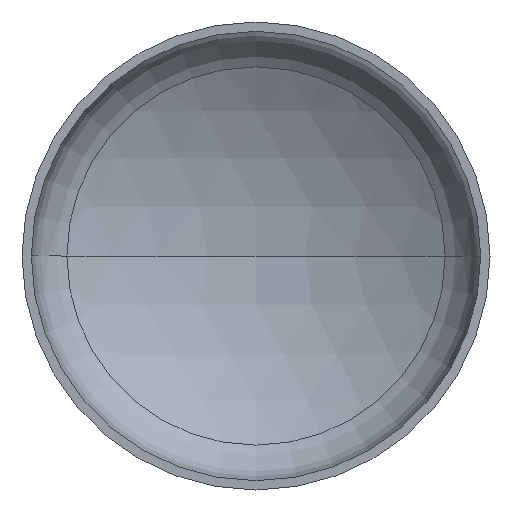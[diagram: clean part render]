
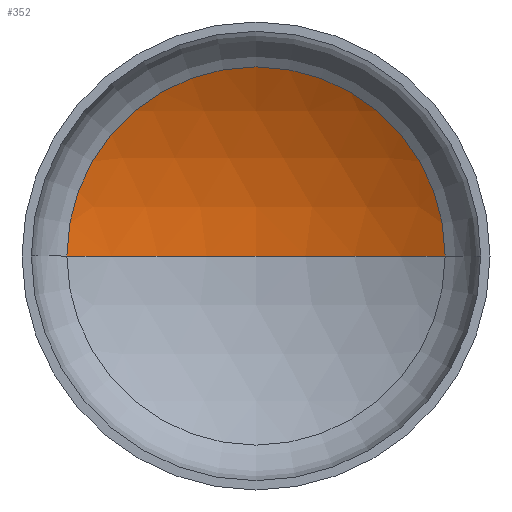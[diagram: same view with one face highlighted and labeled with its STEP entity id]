
A CAD part, front view. The second image highlights one B-rep face of the part: STEP entity #352.
In plain terms, the highlighted spherical face has radius 1200 mm.
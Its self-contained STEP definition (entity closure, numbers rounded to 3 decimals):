
#7 = AXIS2_PLACEMENT_3D ( 'NONE', #148, #357, #398 ) ;
#8 = EDGE_LOOP ( 'NONE', ( #149, #49, #122 ) ) ;
#10 = AXIS2_PLACEMENT_3D ( 'NONE', #68, #105, #107 ) ;
#11 = AXIS2_PLACEMENT_3D ( 'NONE', #236, #396, #381 ) ;
#49 = ORIENTED_EDGE ( 'NONE', *, *, #351, .T. ) ;
#51 = AXIS2_PLACEMENT_3D ( 'NONE', #218, #214, #216 ) ;
#68 = CARTESIAN_POINT ( 'NONE',  ( 0., -747.138, 0. ) ) ;
#90 = EDGE_CURVE ( 'NONE', #367, #166, #409, .T. ) ;
#99 = CARTESIAN_POINT ( 'NONE',  ( 606.186, 288.497, 0. ) ) ;
#105 = DIRECTION ( 'NONE',  ( 0., 0., 1. ) ) ;
#107 = DIRECTION ( 'NONE',  ( 1., 0., 0. ) ) ;
#122 = ORIENTED_EDGE ( 'NONE', *, *, #90, .T. ) ;
#148 = CARTESIAN_POINT ( 'NONE',  ( 0., -747.138, 0. ) ) ;
#149 = ORIENTED_EDGE ( 'NONE', *, *, #356, .F. ) ;
#161 = VERTEX_POINT ( 'NONE', #215 ) ;
#166 = VERTEX_POINT ( 'NONE', #330 ) ;
#168 = CIRCLE ( 'NONE', #10, 1200. ) ;
#214 = DIRECTION ( 'NONE',  ( 0., -1., 0. ) ) ;
#215 = CARTESIAN_POINT ( 'NONE',  ( 0., 452.862, 0. ) ) ;
#216 = DIRECTION ( 'NONE',  ( 1., 0., 0. ) ) ;
#218 = CARTESIAN_POINT ( 'NONE',  ( 0., 288.497, 0. ) ) ;
#236 = CARTESIAN_POINT ( 'NONE',  ( 0., -747.138, 0. ) ) ;
#253 = CIRCLE ( 'NONE', #11, 1200. ) ;
#301 = SPHERICAL_SURFACE ( 'NONE', #7, 1200. ) ;
#330 = CARTESIAN_POINT ( 'NONE',  ( -606.186, 288.497, 0. ) ) ;
#351 = EDGE_CURVE ( 'NONE', #161, #367, #253, .T. ) ;
#352 = ADVANCED_FACE ( 'NONE', ( #365 ), #301, .F. ) ;
#356 = EDGE_CURVE ( 'NONE', #161, #166, #168, .T. ) ;
#357 = DIRECTION ( 'NONE',  ( 0., 0., -1. ) ) ;
#365 = FACE_OUTER_BOUND ( 'NONE', #8, .T. ) ;
#367 = VERTEX_POINT ( 'NONE', #99 ) ;
#381 = DIRECTION ( 'NONE',  ( -1., 0., 0. ) ) ;
#396 = DIRECTION ( 'NONE',  ( 0., 0., -1. ) ) ;
#398 = DIRECTION ( 'NONE',  ( -1., 0., 0. ) ) ;
#409 = CIRCLE ( 'NONE', #51, 606.186 ) ;
